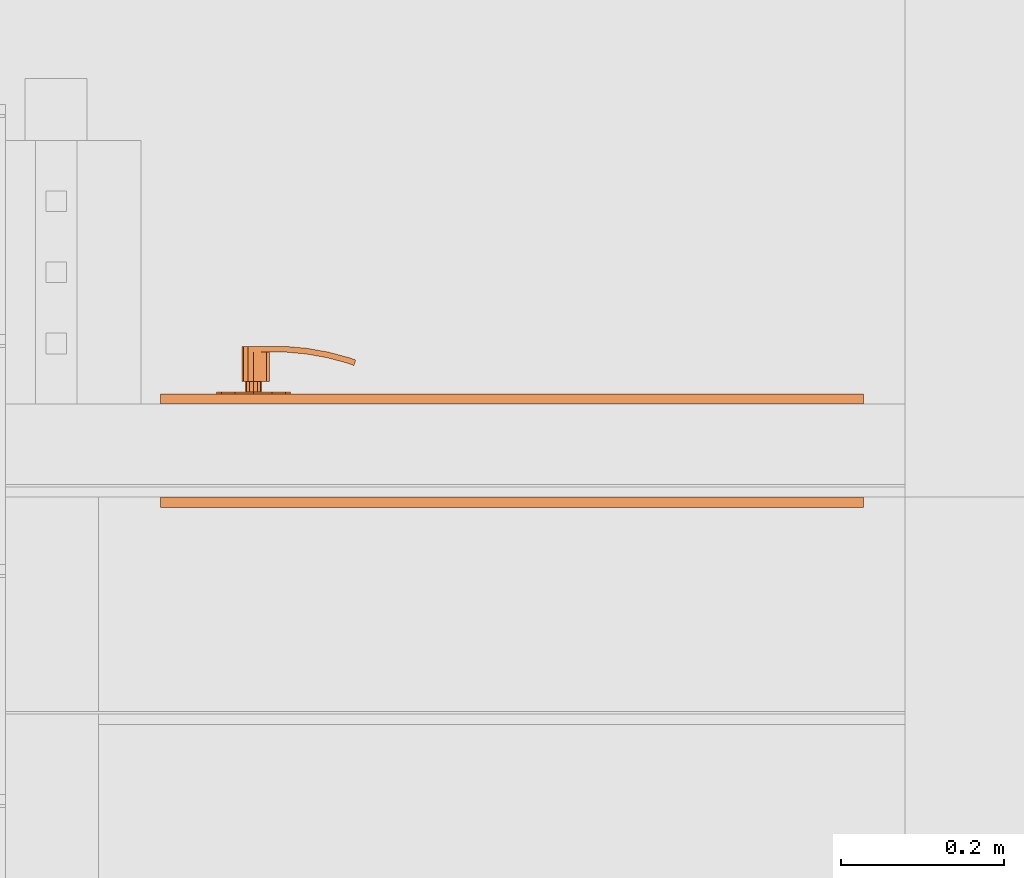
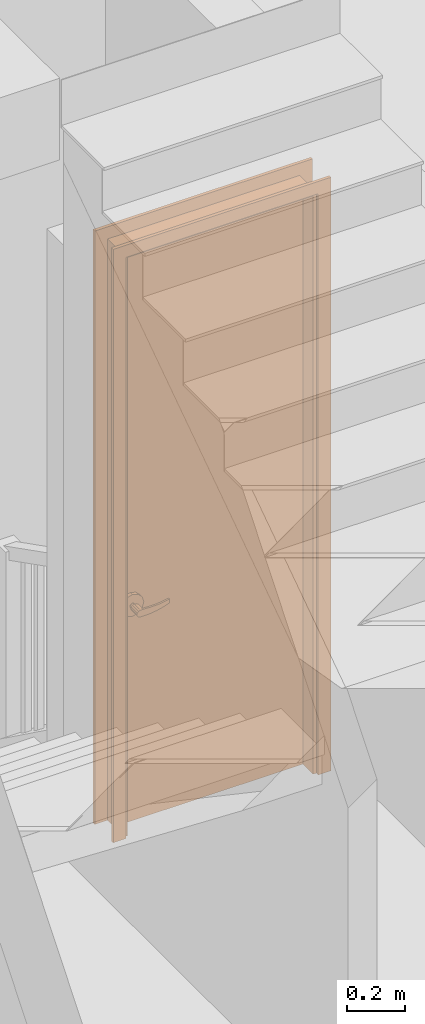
# One storey, part 37 of 48: 1 proxy.
"""IFC2X3 building model written with IfcOpenShell, lengths in inches."""

from ifc_helpers import new_model, entity, si_unit, converted_unit, derived_unit, money_unit, direction, frame, origin_with_axes, place, context, subcontext, project, spatial, open_shell, faceted_brep, surface_model, type_object, element, save


model = new_model("IFC2X3")

# Units and contexts
model_context = context("Model", 3, precision=0.00039370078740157, world=origin_with_axes(), true_north=direction((0.0, 1.0)))
plan_context = context("Plan", 3, precision=0.00039370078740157, world=origin_with_axes(), true_north=direction((0.0, 1.0)))
body_context = subcontext(model_context, "Body", "Model", "MODEL_VIEW")
ifc_project = project(units=[converted_unit("LENGTHUNIT", "INCH", entity("IfcPositiveLengthMeasure", 0.0254), si_unit("LENGTHUNIT", "METRE"), dimensions=[1, 0, 0, 0, 0, 0, 0]), converted_unit("AREAUNIT", "SQUARE_FOOT", entity("IfcPositiveLengthMeasure", 0.09290304), si_unit("AREAUNIT", "SQUARE_METRE"), dimensions=[2, 0, 0, 0, 0, 0, 0]), si_unit("PLANEANGLEUNIT", "RADIAN"), si_unit("SOLIDANGLEUNIT", "STERADIAN"), money_unit("USD"), converted_unit("TIMEUNIT", "Year", entity("IfcTimeMeasure", 31557600.0), si_unit("TIMEUNIT", "SECOND"), dimensions=[0, 0, 1, 0, 0, 0, 0]), si_unit("MASSUNIT", "GRAM", prefix="KILO"), si_unit("THERMODYNAMICTEMPERATUREUNIT", "DEGREE_CELSIUS"), si_unit("LUMINOUSINTENSITYUNIT", "LUMEN"), si_unit("ENERGYUNIT", "JOULE", prefix="MEGA"), derived_unit("SPECIFICHEATCAPACITYUNIT", [(si_unit("ENERGYUNIT", "JOULE"), 1), (si_unit("MASSUNIT", "GRAM", prefix="KILO"), -1), (si_unit("THERMODYNAMICTEMPERATUREUNIT", "KELVIN"), -1)])], contexts=[model_context, plan_context])

# Site, building, storey
site_placement = place(None, origin_with_axes())
site = spatial("IfcSite", under=ifc_project, at=site_placement, Name="Site", CompositionType="ELEMENT")
building_placement = place(site_placement, origin_with_axes())
building = spatial("IfcBuilding", under=site, at=building_placement, Name="Building", CompositionType="ELEMENT")
storey_placement = place(building_placement, origin_with_axes())
storey = spatial("IfcBuildingStorey", under=building, at=storey_placement, Name="First Floor", CompositionType="ELEMENT", Elevation=0.0)

# Proxy
building_element_proxy_type = type_object("IfcBuildingElementProxyType", Name="D1", PredefinedType="NOTDEFINED")
proxy_placement = place(storey_placement, frame((210.4999999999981, 127.5000000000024, 0.0), z_axis=(0.0, 0.0, 1.0), x_axis=(1.0, 0.0, 0.0)))
element("IfcBuildingElementProxy", 1, at=proxy_placement, inside=storey, type_object=building_element_proxy_type, Name="D-07", context=body_context, shape_type="SurfaceModel", body=[
    faceted_brep([(-1.999999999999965, -0.4999999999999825, 0.0), (-1.999999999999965, 0.0, 0.0), (0.0, 0.0, 0.0), (0.0, -0.4999999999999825, 0.0), (-1.999999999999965, -0.5, 97.99999999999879), (-1.999999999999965, 0.0, 97.99999999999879), (0.0, 0.0, 95.9999999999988), (0.0, -0.5, 95.9999999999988)], [[[0, 1, 2, 3]], [[4, 5, 1, 0]], [[1, 5, 6, 2]], [[3, 2, 6, 7]], [[0, 3, 7, 4]], [[7, 6, 5, 4]]]),
    faceted_brep([(31.99999999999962, -0.5000000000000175, 97.99999999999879), (31.99999999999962, 0.0, 97.99999999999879), (29.99999999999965, 0.0, 95.9999999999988), (29.99999999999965, -0.5000000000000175, 95.9999999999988), (31.99999999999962, -0.5, 0.0), (31.99999999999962, 0.0, 0.0), (29.99999999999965, 0.0, 0.0), (29.99999999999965, -0.5, 0.0)], [[[0, 1, 2, 3]], [[4, 5, 1, 0]], [[1, 5, 6, 2]], [[3, 2, 6, 7]], [[0, 3, 7, 4]], [[7, 6, 5, 4]]]),
    faceted_brep([(-1.999999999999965, -0.5, 97.99999999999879), (-1.999999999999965, 0.0, 97.99999999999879), (0.0, 0.0, 95.9999999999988), (0.0, -0.5, 95.9999999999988), (31.99999999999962, -0.5000000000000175, 97.99999999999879), (31.99999999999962, 0.0, 97.99999999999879), (29.99999999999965, 0.0, 95.9999999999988), (29.99999999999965, -0.5000000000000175, 95.9999999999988)], [[[0, 1, 2, 3]], [[4, 5, 1, 0]], [[1, 5, 6, 2]], [[3, 2, 6, 7]], [[0, 3, 7, 4]], [[7, 6, 5, 4]]]),
    faceted_brep([(-1.999999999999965, 4.999999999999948, 0.0), (0.0, 4.999999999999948, 0.0), (0.0, 4.499999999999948, 0.0), (-1.999999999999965, 4.499999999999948, 0.0), (-1.999999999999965, 4.99999999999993, 97.99999999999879), (0.0, 4.99999999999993, 95.9999999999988), (0.0, 4.49999999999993, 95.9999999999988), (-1.999999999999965, 4.49999999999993, 97.99999999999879)], [[[0, 1, 2, 3]], [[0, 4, 5, 1]], [[1, 5, 6, 2]], [[3, 2, 6, 7]], [[4, 0, 3, 7]], [[5, 4, 7, 6]]]),
    faceted_brep([(31.99999999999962, 4.999999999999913, 97.99999999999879), (29.99999999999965, 4.999999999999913, 95.9999999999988), (29.99999999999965, 4.49999999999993, 95.9999999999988), (31.99999999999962, 4.49999999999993, 97.99999999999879), (31.99999999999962, 4.99999999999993, 0.0), (29.99999999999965, 4.99999999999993, 0.0), (29.99999999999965, 4.499999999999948, 0.0), (31.99999999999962, 4.499999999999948, 0.0)], [[[0, 1, 2, 3]], [[0, 4, 5, 1]], [[1, 5, 6, 2]], [[3, 2, 6, 7]], [[4, 0, 3, 7]], [[5, 4, 7, 6]]]),
    faceted_brep([(-1.999999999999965, 4.99999999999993, 97.99999999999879), (0.0, 4.99999999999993, 95.9999999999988), (0.0, 4.49999999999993, 95.9999999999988), (-1.999999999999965, 4.49999999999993, 97.99999999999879), (31.99999999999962, 4.999999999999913, 97.99999999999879), (29.99999999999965, 4.999999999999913, 95.9999999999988), (29.99999999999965, 4.49999999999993, 95.9999999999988), (31.99999999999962, 4.49999999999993, 97.99999999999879)], [[[0, 1, 2, 3]], [[0, 4, 5, 1]], [[1, 5, 6, 2]], [[3, 2, 6, 7]], [[4, 0, 3, 7]], [[5, 4, 7, 6]]]),
    faceted_brep([(0.0, 4.499999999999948, 0.0), (0.5000000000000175, 4.499999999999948, 0.0), (0.4999999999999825, 0.0, 0.0), (0.0, 0.0, 0.0), (0.0, 4.499999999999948, 95.4999999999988), (0.5000000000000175, 4.499999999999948, 95.4999999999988), (0.4999999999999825, 0.0, 95.4999999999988), (0.0, 0.0, 95.4999999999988)], [[[0, 1, 2, 3]], [[0, 4, 5, 1]], [[1, 5, 6, 2]], [[3, 2, 6, 7]], [[4, 0, 3, 7]], [[5, 4, 7, 6]]]),
    faceted_brep([(29.99999999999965, 4.499999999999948, 0.0), (29.99999999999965, 4.49999999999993, 95.4999999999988), (29.99999999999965, 0.0, 95.4999999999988), (29.99999999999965, 0.0, 0.0), (29.49999999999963, 4.499999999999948, 0.0), (29.49999999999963, 4.49999999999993, 95.4999999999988), (29.49999999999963, 0.0, 95.4999999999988), (29.49999999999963, 0.0, 0.0)], [[[0, 1, 2, 3]], [[0, 4, 5, 1]], [[1, 5, 6, 2]], [[3, 2, 6, 7]], [[4, 0, 3, 7]], [[5, 4, 7, 6]]]),
    faceted_brep([(0.0, 4.499999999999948, 95.9999999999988), (0.0, 4.499999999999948, 95.4999999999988), (0.0, 0.0, 95.4999999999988), (0.0, 0.0, 95.9999999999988), (29.99999999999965, 4.49999999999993, 95.9999999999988), (29.99999999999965, 4.49999999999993, 95.4999999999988), (29.49999999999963, 4.49999999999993, 95.4999999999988), (0.5000000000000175, 4.499999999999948, 95.4999999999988), (0.4999999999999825, 0.0, 95.4999999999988), (29.49999999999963, 0.0, 95.4999999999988), (29.99999999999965, 0.0, 95.4999999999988), (29.99999999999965, 0.0, 95.9999999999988)], [[[0, 1, 2, 3]], [[0, 4, 5, 6, 7, 1]], [[1, 7, 8, 2]], [[3, 2, 8, 9, 10, 11]], [[4, 0, 3, 11]], [[5, 4, 11, 10]], [[6, 5, 10, 9]], [[7, 6, 9, 8]]]),
    surface_model("IfcShellBasedSurfaceModel", [(4.051344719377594, 2.159448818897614, 36.89566929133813), (4.291338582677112, 2.159448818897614, 35.99999999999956), (4.291338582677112, 2.163385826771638, 35.99999999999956), (4.051344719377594, 2.163385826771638, 36.89566929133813), (3.395669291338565, 2.159448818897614, 37.55134471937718), (2.499999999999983, 2.159448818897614, 37.7913385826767), (1.6043307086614, 2.159448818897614, 37.55134471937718), (0.948655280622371, 2.159448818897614, 36.89566929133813), (0.7086614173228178, 2.159448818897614, 35.99999999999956), (0.948655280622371, 2.159448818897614, 35.10433070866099), (1.6043307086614, 2.159448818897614, 34.44865528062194), (2.499999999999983, 2.159448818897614, 34.20866141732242), (3.395669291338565, 2.159448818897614, 34.44865528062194), (4.051344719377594, 2.159448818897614, 35.10433070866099), (4.051344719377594, 2.163385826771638, 35.10433070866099), (4.291338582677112, 2.74606299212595, 35.99999999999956), (4.051344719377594, 2.74606299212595, 36.89566929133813), (3.395669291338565, 2.163385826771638, 37.55134471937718), (2.499999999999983, 2.163385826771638, 37.7913385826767), (1.6043307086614, 2.163385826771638, 37.55134471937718), (0.948655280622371, 2.163385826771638, 36.89566929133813), (0.7086614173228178, 2.163385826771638, 35.99999999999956), (0.948655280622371, 2.163385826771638, 35.10433070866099), (1.6043307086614, 2.163385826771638, 34.44865528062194), (2.499999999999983, 2.163385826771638, 34.20866141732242), (3.395669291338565, 2.163385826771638, 34.44865528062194), (4.051344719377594, 2.74606299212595, 35.10433070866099), (4.291338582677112, 2.749999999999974, 35.99999999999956), (4.051344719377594, 2.749999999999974, 36.89566929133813), (3.395669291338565, 2.74606299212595, 37.55134471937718), (2.499999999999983, 2.74606299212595, 37.7913385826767), (1.6043307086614, 2.74606299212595, 37.55134471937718), (0.948655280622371, 2.74606299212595, 36.89566929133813), (0.7086614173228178, 2.74606299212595, 35.99999999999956), (0.948655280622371, 2.74606299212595, 35.10433070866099), (1.6043307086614, 2.74606299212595, 34.44865528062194), (2.499999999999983, 2.74606299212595, 34.20866141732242), (3.395669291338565, 2.74606299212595, 34.44865528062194), (4.051344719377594, 2.749999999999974, 35.10433070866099), (3.395669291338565, 2.749999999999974, 37.55134471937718), (2.499999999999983, 2.749999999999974, 37.7913385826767), (1.6043307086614, 2.749999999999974, 37.55134471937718), (0.948655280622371, 2.749999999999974, 36.89566929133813), (0.7086614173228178, 2.749999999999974, 35.99999999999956), (0.948655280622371, 2.749999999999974, 35.10433070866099), (1.6043307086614, 2.749999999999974, 34.44865528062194), (2.499999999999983, 2.749999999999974, 34.20866141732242), (3.395669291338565, 2.749999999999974, 34.44865528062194)], [open_shell([[[0, 1, 2, 3]], [[1, 0, 4, 5, 6, 7, 8, 9, 10, 11, 12, 13]], [[1, 13, 14, 2]], [[3, 2, 15, 16]], [[4, 0, 3, 17]], [[5, 4, 17, 18]], [[6, 5, 18, 19]], [[7, 6, 19, 20]], [[8, 7, 20, 21]], [[9, 8, 21, 22]], [[10, 9, 22, 23]], [[11, 10, 23, 24]], [[12, 11, 24, 25]], [[13, 12, 25, 14]], [[2, 14, 26, 15]], [[16, 15, 27, 28]], [[17, 3, 16, 29]], [[18, 17, 29, 30]], [[19, 18, 30, 31]], [[20, 19, 31, 32]], [[21, 20, 32, 33]], [[22, 21, 33, 34]], [[23, 22, 34, 35]], [[24, 23, 35, 36]], [[25, 24, 36, 37]], [[14, 25, 37, 26]], [[15, 26, 38, 27]], [[29, 16, 28, 39]], [[30, 29, 39, 40]], [[31, 30, 40, 41]], [[32, 31, 41, 42]], [[33, 32, 42, 43]], [[34, 33, 43, 44]], [[35, 34, 44, 45]], [[36, 35, 45, 46]], [[37, 36, 46, 47]], [[26, 37, 47, 38]]])]),
    faceted_brep([(2.303149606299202, 2.159448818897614, 35.65904511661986), (2.159045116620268, 2.159448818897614, 35.80314960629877), (2.106299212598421, 2.159448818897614, 35.99999999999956), (2.159045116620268, 2.159448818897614, 36.19685039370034), (2.303149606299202, 2.159448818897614, 36.34095488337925), (2.499999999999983, 2.159448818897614, 36.39370078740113), (2.696850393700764, 2.159448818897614, 36.34095488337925), (2.840954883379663, 2.159448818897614, 36.19685039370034), (2.893700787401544, 2.159448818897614, 35.99999999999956), (2.840954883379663, 2.159448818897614, 35.80314960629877), (2.696850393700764, 2.159448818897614, 35.65904511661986), (2.499999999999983, 2.159448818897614, 35.60629921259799), (2.303149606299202, 1.647637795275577, 35.65904511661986), (2.159045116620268, 1.647637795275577, 35.80314960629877), (2.106299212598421, 1.647637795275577, 35.99999999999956), (2.159045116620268, 1.647637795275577, 36.19685039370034), (2.303149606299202, 1.647637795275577, 36.34095488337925), (2.499999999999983, 1.647637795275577, 36.39370078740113), (2.696850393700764, 1.647637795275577, 36.34095488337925), (2.840954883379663, 1.647637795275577, 36.19685039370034), (2.893700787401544, 1.647637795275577, 35.99999999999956), (2.840954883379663, 1.647637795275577, 35.80314960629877), (2.696850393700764, 1.647637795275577, 35.65904511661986), (2.499999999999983, 1.647637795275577, 35.60629921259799)], [[[0, 1, 2, 3, 4, 5, 6, 7, 8, 9, 10, 11]], [[1, 0, 12, 13]], [[2, 1, 13, 14]], [[3, 2, 14, 15]], [[4, 3, 15, 16]], [[5, 4, 16, 17]], [[6, 5, 17, 18]], [[7, 6, 18, 19]], [[8, 7, 19, 20]], [[9, 8, 20, 21]], [[10, 9, 21, 22]], [[11, 10, 22, 23]], [[0, 11, 23, 12]], [[12, 23, 22, 21, 20, 19, 18, 17, 16, 15, 14, 13]]]),
    faceted_brep([(2.499999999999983, 1.647637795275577, 36.55118110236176), (2.224409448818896, 1.647637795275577, 36.47733683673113), (2.224409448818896, 0.2303149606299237, 36.47733683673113), (2.499999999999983, 0.2303149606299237, 36.55118110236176), (2.893700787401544, 1.647637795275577, 36.47244094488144), (3.126478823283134, 1.647637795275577, 36.35358914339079), (3.262948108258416, 1.647637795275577, 36.13068221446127), (3.262948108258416, 1.647637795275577, 35.86931778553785), (3.126478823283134, 1.647637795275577, 35.64641085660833), (2.893700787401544, 1.647637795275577, 35.52755905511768), (2.499999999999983, 1.647637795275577, 35.44881889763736), (2.224409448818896, 1.647637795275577, 35.52266316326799), (2.022663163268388, 1.647637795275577, 35.72440944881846), (1.948818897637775, 1.647637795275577, 35.99999999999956), (2.022663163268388, 1.647637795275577, 36.27559055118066), (2.022663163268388, 0.2303149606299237, 36.27559055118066), (1.948818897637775, 0.2303149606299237, 35.99999999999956), (2.022663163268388, 0.2303149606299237, 35.72440944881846), (2.224409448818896, 0.2303149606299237, 35.52266316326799), (2.499999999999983, 0.2303149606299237, 35.44881889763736), (2.893700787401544, 0.2303149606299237, 35.52755905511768), (3.126478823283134, 0.2303149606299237, 35.64641085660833), (3.262948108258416, 0.2303149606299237, 35.86931778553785), (3.262948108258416, 0.2303149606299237, 36.13068221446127), (3.126478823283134, 0.2303149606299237, 36.35358914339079), (2.893700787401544, 0.2303149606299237, 36.47244094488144)], [[[0, 1, 2, 3]], [[0, 4, 5, 6, 7, 8, 9, 10, 11, 12, 13, 14, 1]], [[1, 14, 15, 2]], [[3, 2, 15, 16, 17, 18, 19, 20, 21, 22, 23, 24, 25]], [[4, 0, 3, 25]], [[5, 4, 25, 24]], [[6, 5, 24, 23]], [[7, 6, 23, 22]], [[8, 7, 22, 21]], [[9, 8, 21, 20]], [[10, 9, 20, 19]], [[11, 10, 19, 18]], [[12, 11, 18, 17]], [[13, 12, 17, 16]], [[14, 13, 16, 15]]]),
    surface_model("IfcShellBasedSurfaceModel", [(2.499999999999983, 0.2303149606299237, 36.55118110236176), (2.224409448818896, 0.2303149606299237, 36.47733683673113), (2.224409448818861, -0.04527559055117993, 36.47733683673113), (2.499999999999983, -0.04527559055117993, 36.55118110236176), (3.484251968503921, 0.2303149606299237, 36.55118110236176), (3.484251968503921, 0.2303149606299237, 35.44881889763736), (2.499999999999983, 0.2303149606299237, 35.44881889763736), (2.224409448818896, 0.2303149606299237, 35.52266316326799), (2.022663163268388, 0.2303149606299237, 35.72440944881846), (1.948818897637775, 0.2303149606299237, 35.99999999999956), (2.022663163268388, 0.2303149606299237, 36.27559055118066), (2.022663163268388, -0.04527559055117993, 36.27559055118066), (1.948818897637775, -0.04527559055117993, 35.99999999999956), (2.022663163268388, -0.04527559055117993, 35.72440944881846), (2.224409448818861, -0.04527559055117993, 35.52266316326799), (2.499999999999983, -0.04527559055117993, 35.44881889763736), (3.484251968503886, -0.04527559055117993, 35.44881889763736), (3.484251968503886, -0.04527559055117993, 36.55118110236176)], [open_shell([[[0, 1, 2, 3]], [[0, 4, 5, 6, 7, 8, 9, 10, 1]], [[1, 10, 11, 2]], [[3, 2, 11, 12, 13, 14, 15, 16, 17]], [[4, 0, 3, 17]], [[6, 5, 16, 15]], [[7, 6, 15, 14]], [[8, 7, 14, 13]], [[9, 8, 13, 12]], [[10, 9, 12, 11]]])]),
    surface_model("IfcShellBasedSurfaceModel", [(3.484251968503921, 0.2303149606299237, 35.44881889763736), (3.999932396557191, 0.2303149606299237, 35.47974008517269), (4.011964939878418, -0.04527559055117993, 35.47974008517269), (3.484251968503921, 0.2303149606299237, 36.55118110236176), (3.999932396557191, 0.2303149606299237, 36.52025991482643), (5.063374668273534, 0.04671084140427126, 35.54158246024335), (3.484251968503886, -0.04527559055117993, 35.44881889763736), (3.484251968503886, -0.04527559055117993, 36.55118110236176), (5.027368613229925, 0.3202039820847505, 36.45841753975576), (5.027368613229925, 0.3202039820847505, 35.54158246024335), (5.063374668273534, 0.04671084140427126, 36.45841753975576), (4.011964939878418, -0.04527559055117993, 36.52025991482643), (6.043060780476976, 0.4992979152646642, 36.3965751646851), (6.043060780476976, 0.4992979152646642, 35.60342483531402), (6.102766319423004, 0.2299836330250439, 35.60342483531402), (6.102766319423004, 0.2299836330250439, 36.3965751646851), (7.039278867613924, 0.7662337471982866, 36.33473278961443), (7.039278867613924, 0.7662337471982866, 35.66526721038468), (7.122229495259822, 0.5031479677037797, 35.66526721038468), (7.122229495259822, 0.5031479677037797, 36.33473278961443), (7.349234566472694, 0.8790483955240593, 36.31496062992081), (7.349234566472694, 0.8790483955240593, 35.6850393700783), (7.439417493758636, 0.6185949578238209, 35.6850393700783), (7.439417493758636, 0.6185949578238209, 36.31496062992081)], [open_shell([[[0, 1, 2]], [[0, 3, 4, 1]], [[1, 5, 2]], [[0, 2, 6]], [[4, 3, 7]], [[1, 4, 8, 9]], [[1, 9, 5]], [[2, 5, 10, 11]], [[6, 2, 11, 7]], [[4, 7, 11]], [[8, 4, 11]], [[9, 8, 12, 13]], [[9, 14, 5]], [[5, 14, 15, 10]], [[8, 11, 10]], [[12, 8, 10]], [[13, 12, 16, 17]], [[9, 13, 14]], [[14, 18, 19, 15]], [[12, 10, 15]], [[16, 12, 15]], [[17, 16, 20, 21]], [[13, 17, 18]], [[13, 18, 14]], [[18, 22, 23, 19]], [[16, 15, 19]], [[20, 16, 19]], [[21, 20, 23, 22]], [[17, 21, 22]], [[17, 22, 18]], [[20, 19, 23]]])]),
    surface_model("IfcShellBasedSurfaceModel", [(4.051344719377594, 5.090551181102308, 36.89566929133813), (4.051344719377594, 5.086614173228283, 36.89566929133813), (4.291338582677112, 5.086614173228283, 35.99999999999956), (4.291338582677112, 5.090551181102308, 35.99999999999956), (3.395669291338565, 5.090551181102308, 37.55134471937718), (3.395669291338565, 5.086614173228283, 37.55134471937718), (4.051344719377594, 4.503937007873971, 36.89566929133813), (4.291338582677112, 4.503937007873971, 35.99999999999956), (4.051344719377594, 5.086614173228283, 35.10433070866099), (4.051344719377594, 5.090551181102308, 35.10433070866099), (3.395669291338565, 5.090551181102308, 34.44865528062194), (2.499999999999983, 5.090551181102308, 34.20866141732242), (1.6043307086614, 5.090551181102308, 34.44865528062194), (0.948655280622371, 5.090551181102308, 35.10433070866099), (0.7086614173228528, 5.090551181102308, 35.99999999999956), (0.948655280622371, 5.090551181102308, 36.89566929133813), (1.6043307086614, 5.090551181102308, 37.55134471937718), (2.499999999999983, 5.090551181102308, 37.7913385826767), (2.499999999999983, 5.086614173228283, 37.7913385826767), (3.395669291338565, 4.503937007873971, 37.55134471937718), (4.051344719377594, 4.499999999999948, 36.89566929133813), (4.291338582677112, 4.499999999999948, 35.99999999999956), (4.051344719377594, 4.503937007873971, 35.10433070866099), (3.395669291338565, 5.086614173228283, 34.44865528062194), (2.499999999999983, 5.086614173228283, 34.20866141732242), (1.6043307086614, 5.086614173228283, 34.44865528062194), (0.948655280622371, 5.086614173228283, 35.10433070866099), (0.7086614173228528, 5.086614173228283, 35.99999999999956), (0.948655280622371, 5.086614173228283, 36.89566929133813), (1.6043307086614, 5.086614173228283, 37.55134471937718), (2.499999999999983, 4.503937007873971, 37.7913385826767), (3.395669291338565, 4.499999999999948, 37.55134471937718), (4.051344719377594, 4.499999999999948, 35.10433070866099), (3.395669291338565, 4.503937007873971, 34.44865528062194), (2.499999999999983, 4.503937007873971, 34.20866141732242), (1.6043307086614, 4.503937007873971, 34.44865528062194), (0.948655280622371, 4.503937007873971, 35.10433070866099), (0.7086614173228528, 4.503937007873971, 35.99999999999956), (0.948655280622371, 4.503937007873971, 36.89566929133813), (1.6043307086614, 4.503937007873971, 37.55134471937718), (2.499999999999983, 4.499999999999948, 37.7913385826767), (3.395669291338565, 4.499999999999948, 34.44865528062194), (2.499999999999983, 4.499999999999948, 34.20866141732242), (1.6043307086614, 4.499999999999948, 34.44865528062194), (0.948655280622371, 4.499999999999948, 35.10433070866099), (0.7086614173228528, 4.499999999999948, 35.99999999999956), (0.948655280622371, 4.499999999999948, 36.89566929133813), (1.6043307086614, 4.499999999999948, 37.55134471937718)], [open_shell([[[0, 1, 2, 3]], [[4, 5, 1, 0]], [[1, 6, 7, 2]], [[3, 2, 8, 9]], [[3, 9, 10, 11, 12, 13, 14, 15, 16, 17, 4, 0]], [[17, 18, 5, 4]], [[5, 19, 6, 1]], [[6, 20, 21, 7]], [[2, 7, 22, 8]], [[9, 8, 23, 10]], [[10, 23, 24, 11]], [[11, 24, 25, 12]], [[12, 25, 26, 13]], [[13, 26, 27, 14]], [[14, 27, 28, 15]], [[15, 28, 29, 16]], [[16, 29, 18, 17]], [[18, 30, 19, 5]], [[19, 31, 20, 6]], [[7, 21, 32, 22]], [[8, 22, 33, 23]], [[23, 33, 34, 24]], [[24, 34, 35, 25]], [[25, 35, 36, 26]], [[26, 36, 37, 27]], [[27, 37, 38, 28]], [[28, 38, 39, 29]], [[29, 39, 30, 18]], [[30, 40, 31, 19]], [[22, 32, 41, 33]], [[33, 41, 42, 34]], [[34, 42, 43, 35]], [[35, 43, 44, 36]], [[36, 44, 45, 37]], [[37, 45, 46, 38]], [[38, 46, 47, 39]], [[39, 47, 40, 30]]])]),
    faceted_brep([(2.303149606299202, 5.090551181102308, 35.65904511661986), (2.499999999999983, 5.090551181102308, 35.60629921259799), (2.696850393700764, 5.090551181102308, 35.65904511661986), (2.840954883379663, 5.090551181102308, 35.80314960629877), (2.893700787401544, 5.090551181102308, 35.99999999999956), (2.840954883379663, 5.090551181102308, 36.19685039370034), (2.696850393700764, 5.090551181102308, 36.34095488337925), (2.499999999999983, 5.090551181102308, 36.39370078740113), (2.303149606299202, 5.090551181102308, 36.34095488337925), (2.159045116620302, 5.090551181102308, 36.19685039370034), (2.106299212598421, 5.090551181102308, 35.99999999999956), (2.159045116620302, 5.090551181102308, 35.80314960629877), (2.303149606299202, 5.602362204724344, 35.65904511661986), (2.499999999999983, 5.602362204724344, 35.60629921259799), (2.696850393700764, 5.602362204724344, 35.65904511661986), (2.840954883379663, 5.602362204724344, 35.80314960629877), (2.893700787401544, 5.602362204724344, 35.99999999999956), (2.840954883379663, 5.602362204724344, 36.19685039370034), (2.696850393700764, 5.602362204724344, 36.34095488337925), (2.499999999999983, 5.602362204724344, 36.39370078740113), (2.303149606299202, 5.602362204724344, 36.34095488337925), (2.159045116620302, 5.602362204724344, 36.19685039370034), (2.106299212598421, 5.602362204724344, 35.99999999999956), (2.159045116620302, 5.602362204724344, 35.80314960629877)], [[[0, 1, 2, 3, 4, 5, 6, 7, 8, 9, 10, 11]], [[0, 12, 13, 1]], [[1, 13, 14, 2]], [[2, 14, 15, 3]], [[3, 15, 16, 4]], [[4, 16, 17, 5]], [[5, 17, 18, 6]], [[6, 18, 19, 7]], [[7, 19, 20, 8]], [[8, 20, 21, 9]], [[9, 21, 22, 10]], [[10, 22, 23, 11]], [[11, 23, 12, 0]], [[12, 23, 22, 21, 20, 19, 18, 17, 16, 15, 14, 13]]]),
    faceted_brep([(2.499999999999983, 5.602362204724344, 36.55118110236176), (2.499999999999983, 7.019685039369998, 36.55118110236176), (2.224409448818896, 7.019685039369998, 36.47733683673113), (2.224409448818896, 5.602362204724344, 36.47733683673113), (2.893700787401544, 5.602362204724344, 36.47244094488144), (2.893700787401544, 7.019685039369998, 36.47244094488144), (3.126478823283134, 7.019685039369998, 36.35358914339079), (3.262948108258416, 7.019685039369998, 36.13068221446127), (3.262948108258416, 7.019685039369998, 35.86931778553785), (3.126478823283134, 7.019685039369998, 35.64641085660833), (2.893700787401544, 7.019685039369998, 35.52755905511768), (2.499999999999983, 7.019685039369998, 35.44881889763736), (2.224409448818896, 7.019685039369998, 35.52266316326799), (2.022663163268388, 7.019685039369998, 35.72440944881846), (1.948818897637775, 7.019685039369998, 35.99999999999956), (2.022663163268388, 7.019685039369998, 36.27559055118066), (2.022663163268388, 5.602362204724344, 36.27559055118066), (1.948818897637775, 5.602362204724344, 35.99999999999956), (2.022663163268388, 5.602362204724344, 35.72440944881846), (2.224409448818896, 5.602362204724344, 35.52266316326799), (2.499999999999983, 5.602362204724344, 35.44881889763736), (2.893700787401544, 5.602362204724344, 35.52755905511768), (3.126478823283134, 5.602362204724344, 35.64641085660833), (3.262948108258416, 5.602362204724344, 35.86931778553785), (3.262948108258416, 5.602362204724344, 36.13068221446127), (3.126478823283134, 5.602362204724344, 36.35358914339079)], [[[0, 1, 2, 3]], [[4, 5, 1, 0]], [[1, 5, 6, 7, 8, 9, 10, 11, 12, 13, 14, 15, 2]], [[3, 2, 15, 16]], [[0, 3, 16, 17, 18, 19, 20, 21, 22, 23, 24, 25, 4]], [[25, 6, 5, 4]], [[24, 7, 6, 25]], [[23, 8, 7, 24]], [[22, 9, 8, 23]], [[21, 10, 9, 22]], [[20, 11, 10, 21]], [[19, 12, 11, 20]], [[18, 13, 12, 19]], [[17, 14, 13, 18]], [[16, 15, 14, 17]]]),
    surface_model("IfcShellBasedSurfaceModel", [(2.499999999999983, 7.019685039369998, 36.55118110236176), (2.499999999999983, 7.295275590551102, 36.55118110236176), (2.224409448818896, 7.295275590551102, 36.47733683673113), (2.224409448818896, 7.019685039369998, 36.47733683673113), (3.484251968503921, 7.019685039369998, 36.55118110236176), (3.484251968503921, 7.295275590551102, 36.55118110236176), (3.484251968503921, 7.295275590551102, 35.44881889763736), (2.499999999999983, 7.295275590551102, 35.44881889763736), (2.224409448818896, 7.295275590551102, 35.52266316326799), (2.022663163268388, 7.295275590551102, 35.72440944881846), (1.948818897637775, 7.295275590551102, 35.99999999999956), (2.022663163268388, 7.295275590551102, 36.27559055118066), (2.022663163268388, 7.019685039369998, 36.27559055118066), (1.948818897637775, 7.019685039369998, 35.99999999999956), (2.022663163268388, 7.019685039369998, 35.72440944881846), (2.224409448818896, 7.019685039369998, 35.52266316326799), (2.499999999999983, 7.019685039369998, 35.44881889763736), (3.484251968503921, 7.019685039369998, 35.44881889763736)], [open_shell([[[0, 1, 2, 3]], [[4, 5, 1, 0]], [[1, 5, 6, 7, 8, 9, 10, 11, 2]], [[3, 2, 11, 12]], [[0, 3, 12, 13, 14, 15, 16, 17, 4]], [[16, 7, 6, 17]], [[15, 8, 7, 16]], [[14, 9, 8, 15]], [[13, 10, 9, 14]], [[12, 11, 10, 13]]])]),
    surface_model("IfcShellBasedSurfaceModel", [(3.484251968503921, 7.019685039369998, 35.44881889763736), (4.011964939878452, 7.295275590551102, 35.47974008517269), (3.999932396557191, 7.019685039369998, 35.47974008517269), (3.484251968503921, 7.295275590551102, 35.44881889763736), (5.063374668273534, 7.20328915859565, 35.54158246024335), (3.999932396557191, 7.019685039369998, 36.52025991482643), (3.484251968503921, 7.019685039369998, 36.55118110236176), (3.484251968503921, 7.295275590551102, 36.55118110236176), (4.011964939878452, 7.295275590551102, 36.52025991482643), (5.063374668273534, 7.20328915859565, 36.45841753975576), (5.027368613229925, 6.929796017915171, 35.54158246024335), (5.027368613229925, 6.929796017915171, 36.45841753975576), (6.102766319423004, 7.020016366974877, 36.3965751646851), (6.102766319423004, 7.020016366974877, 35.60342483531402), (6.043060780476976, 6.750702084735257, 35.60342483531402), (6.043060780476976, 6.750702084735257, 36.3965751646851), (7.122229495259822, 6.746852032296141, 36.33473278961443), (7.122229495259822, 6.746852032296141, 35.66526721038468), (7.039278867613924, 6.483766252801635, 35.66526721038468), (7.039278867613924, 6.483766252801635, 36.33473278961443), (7.439417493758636, 6.631405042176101, 36.31496062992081), (7.439417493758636, 6.631405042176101, 35.6850393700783), (7.349234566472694, 6.370951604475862, 35.6850393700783), (7.349234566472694, 6.370951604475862, 36.31496062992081)], [open_shell([[[0, 1, 2]], [[0, 3, 1]], [[2, 1, 4]], [[0, 2, 5, 6]], [[3, 7, 8, 1]], [[1, 8, 9, 4]], [[2, 4, 10]], [[2, 10, 11, 5]], [[5, 7, 6]], [[5, 8, 7]], [[11, 9, 8]], [[4, 9, 12, 13]], [[10, 4, 13]], [[10, 14, 15, 11]], [[11, 8, 5]], [[15, 9, 11]], [[15, 12, 9]], [[13, 12, 16, 17]], [[10, 13, 14]], [[14, 18, 19, 15]], [[19, 12, 15]], [[19, 16, 12]], [[17, 16, 20, 21]], [[14, 13, 17]], [[14, 17, 18]], [[18, 22, 23, 19]], [[23, 16, 19]], [[23, 20, 16]], [[22, 21, 20, 23]], [[18, 17, 21]], [[18, 21, 22]]])]),
    faceted_brep([(0.5393700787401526, 2.749999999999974, 0.03937007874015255), (29.4606299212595, 2.749999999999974, 0.03937007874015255), (29.4606299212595, 2.749999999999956, 95.46062992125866), (0.5393700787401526, 2.749999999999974, 95.46062992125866), (29.4606299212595, 4.499999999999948, 0.03937007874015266), (0.5393700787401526, 4.499999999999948, 0.03937007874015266), (29.4606299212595, 4.49999999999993, 95.46062992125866), (0.5393700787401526, 4.499999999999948, 95.46062992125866)], [[[0, 1, 2, 3]], [[4, 1, 0, 5]], [[1, 4, 6, 2]], [[2, 6, 7, 3]], [[5, 0, 3, 7]], [[4, 5, 7, 6]]]),
    faceted_brep([(29.49999999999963, 4.499999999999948, 0.0), (29.49999999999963, 2.749999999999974, 0.0), (0.5000000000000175, 2.749999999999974, 0.0), (0.5000000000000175, 4.499999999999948, 0.0), (29.49999999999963, 4.49999999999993, 95.4999999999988), (29.49999999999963, 2.749999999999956, 95.4999999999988), (0.5000000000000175, 2.749999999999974, 95.4999999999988), (29.4606299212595, 2.749999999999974, 0.03937007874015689), (0.5393700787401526, 2.749999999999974, 0.03937007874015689), (0.5393700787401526, 2.749999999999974, 95.46062992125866), (29.4606299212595, 2.749999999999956, 95.46062992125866), (0.5000000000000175, 4.499999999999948, 95.4999999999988), (29.4606299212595, 4.499999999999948, 0.039370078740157), (29.4606299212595, 4.49999999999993, 95.46062992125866), (0.5393700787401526, 4.499999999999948, 95.46062992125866), (0.5393700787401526, 4.499999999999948, 0.039370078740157)], [[[0, 1, 2, 3]], [[4, 5, 1, 0]], [[1, 5, 6, 2], [7, 8, 9, 10]], [[3, 2, 6, 11]], [[0, 3, 11, 4], [12, 13, 14, 15]], [[11, 6, 5, 4]], [[15, 8, 7, 12]], [[14, 9, 8, 15]], [[13, 10, 9, 14]], [[12, 7, 10, 13]]]),
])

save(model, "model.ifc")
